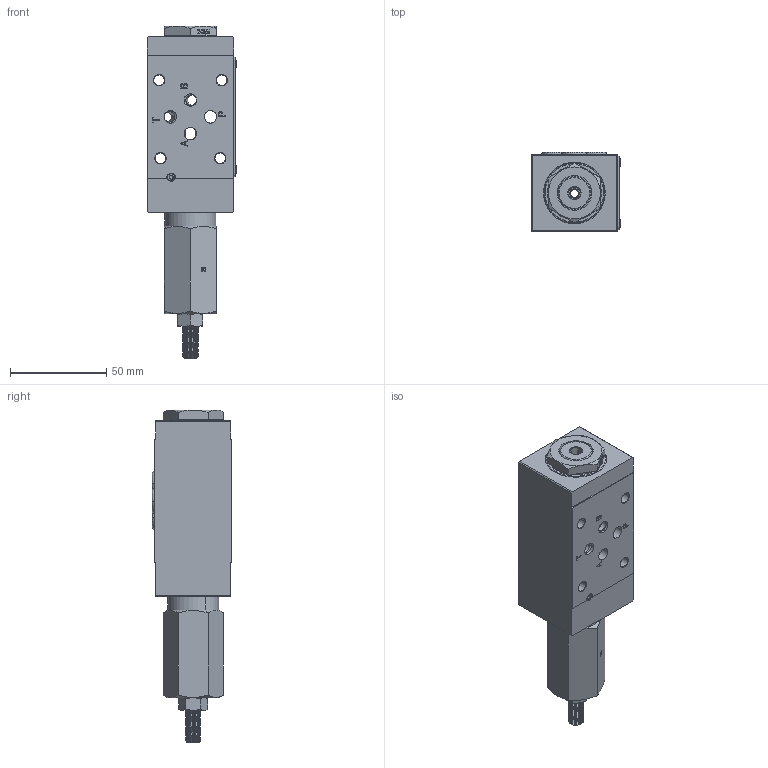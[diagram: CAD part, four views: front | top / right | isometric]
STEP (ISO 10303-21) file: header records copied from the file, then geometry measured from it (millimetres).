
FILE_DESCRIPTION (( 'STEP AP214' ), '1' );
FILE_NAME ('ASSIEME 376-5-A-03.STEP', '2019-12-03T14:32:50', ( '' ), ( '' ), 'SwSTEP 2.0', 'SolidWorks 2018', '' );
FILE_SCHEMA (( 'AUTOMOTIVE_DESIGN' ));
Length unit declared in the file: millimetre
Products named in the file (1): ASSIEME 376-5-A-03
Bounding box: 46.66 x 41.37 x 172.5 mm (x, y, z)
Surface area: 35149.4 mm2 (no closed solid volume)
Topology: 0 solids, 54 shells, 1001 faces, 4525 edges, 3441 vertices
Faces by surface type: plane 549, cone 179, bspline 140, cylinder 119, sphere 8, torus 6
Entity records: 72463 total; most frequent: CARTESIAN_POINT 27822, ORIENTED_EDGE 6297, DIRECTION 5867, EDGE_CURVE 4525, VERTEX_POINT 3441, LINE 3015, VECTOR 3015, AXIS2_PLACEMENT_3D 1426
